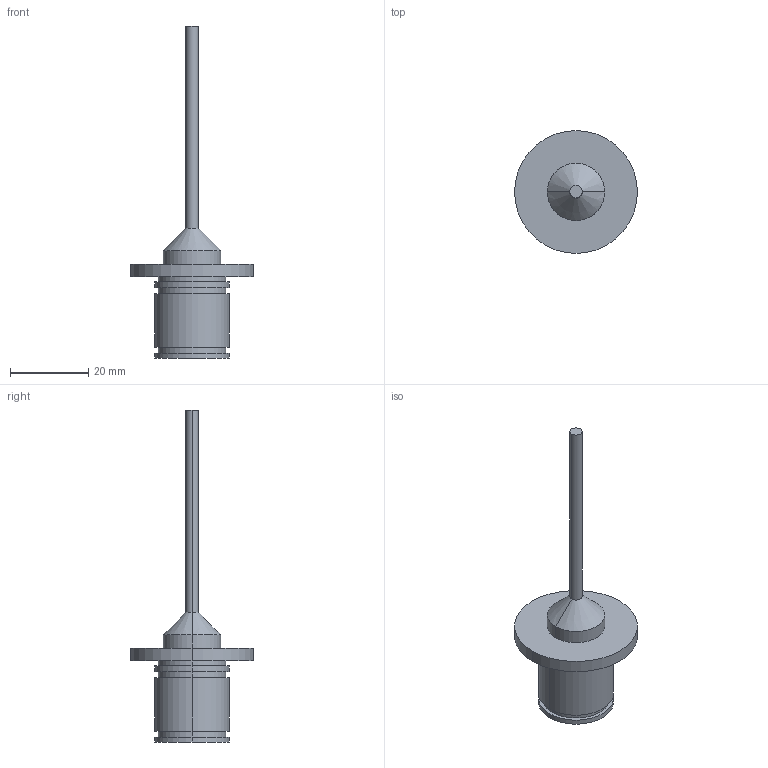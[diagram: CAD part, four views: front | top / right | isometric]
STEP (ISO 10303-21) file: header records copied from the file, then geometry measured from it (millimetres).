
FILE_DESCRIPTION (( 'STEP AP203' ), '1' );
FILE_NAME ('KD-1975 Flanged.STEP', '2010-03-05T19:03:14', ( 'tom edwards' ), ( 'Tom J. Edwards' ), 'SwSTEP 2.0', 'SolidWorks 2008', '' );
FILE_SCHEMA (( 'CONFIG_CONTROL_DESIGN' ));
Length unit declared in the file: inch
Products named in the file (1): KD-1975 Flanged
Bounding box: 31.5 x 31.5 x 85.09 mm (x, y, z)
Volume: 9683.8 mm3; surface area: 4166.4 mm2
Topology: 1 solids, 1 shells, 29 faces, 56 edges, 36 vertices
Faces by surface type: cylinder 18, plane 9, cone 2
Entity records: 833 total; most frequent: DIRECTION 152, CARTESIAN_POINT 122, ORIENTED_EDGE 112, AXIS2_PLACEMENT_3D 66, EDGE_CURVE 56, VERTEX_POINT 36, EDGE_LOOP 36, CIRCLE 36
